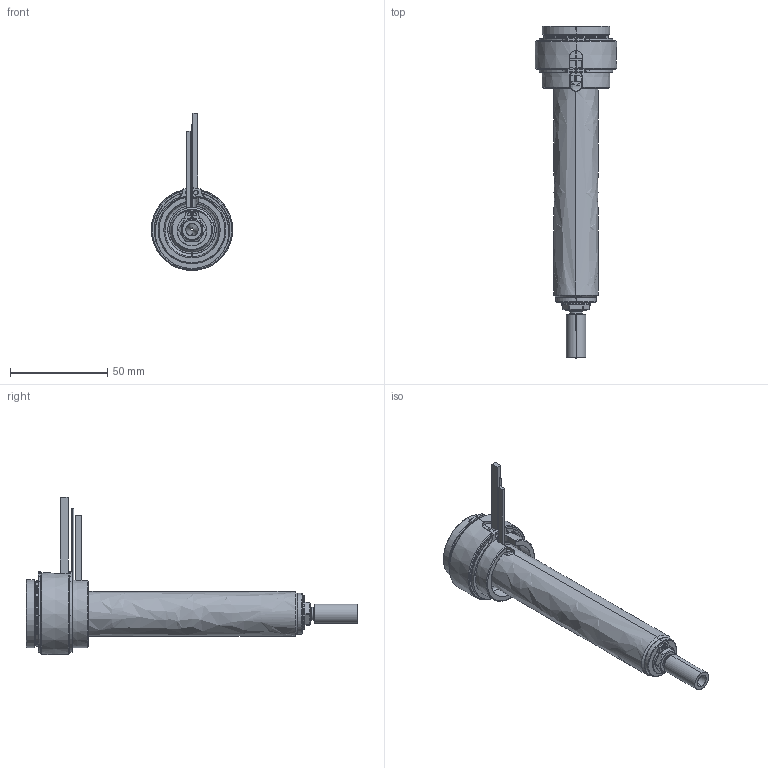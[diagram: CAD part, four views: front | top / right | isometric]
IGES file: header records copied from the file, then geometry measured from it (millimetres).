
Start section: SolidWorks IGES file using analytic representation for surfaces
Global section: file name: C:\Users\luca.EMPAD\Desktop\TEM\UGBE3503-S-A-P-5 [Ød-1.5 P-20 ØC-7.0].IGS; native system: SolidWorks 2012; preprocessor: SolidWorks 2012; author: luca; date: 120330.140543; units: millimetre
Bounding box: 42 x 171 x 80.9 mm (x, y, z)
Surface area: 38815.6 mm2 (no closed solid volume)
Topology: 0 solids, 0 shells, 194 faces, 3606 edges, 3606 vertices
Faces by surface type: revolution 124, bspline 70
